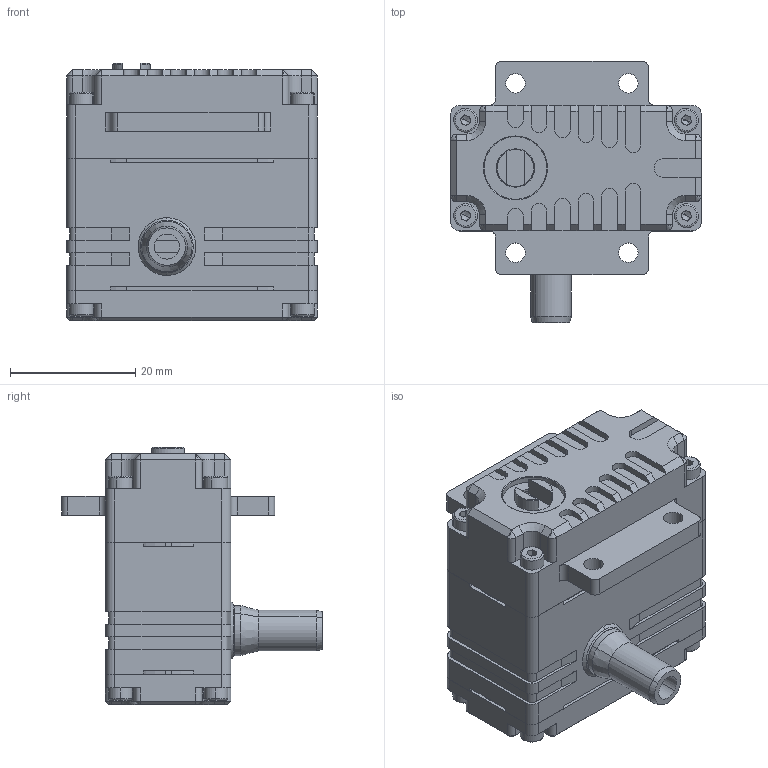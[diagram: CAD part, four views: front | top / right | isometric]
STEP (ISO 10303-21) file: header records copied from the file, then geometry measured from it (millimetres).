
FILE_DESCRIPTION (( 'STEP AP214' ), '1' );
FILE_NAME ('HS20T-12Plus_DM_202504.STEP', '2025-05-13T13:34:27', ( '' ), ( '' ), 'SwSTEP 2.0', 'SolidWorks 2016', '' );
FILE_SCHEMA (( 'AUTOMOTIVE_DESIGN' ));
Length unit declared in the file: millimetre
Products named in the file (1): HS20T-12Plus_DM_202504
Bounding box: 40 x 41.6 x 41 mm (x, y, z)
Surface area: 8700.7 mm2 (no closed solid volume)
Topology: 0 solids, 14 shells, 450 faces, 1306 edges, 827 vertices
Faces by surface type: plane 262, cylinder 120, cone 52, torus 16
Entity records: 19460 total; most frequent: DIRECTION 2596, CARTESIAN_POINT 2572, ORIENTED_EDGE 2302, EDGE_CURVE 1282, AXIS2_PLACEMENT_3D 867, VECTOR 862, LINE 862, VERTEX_POINT 827
